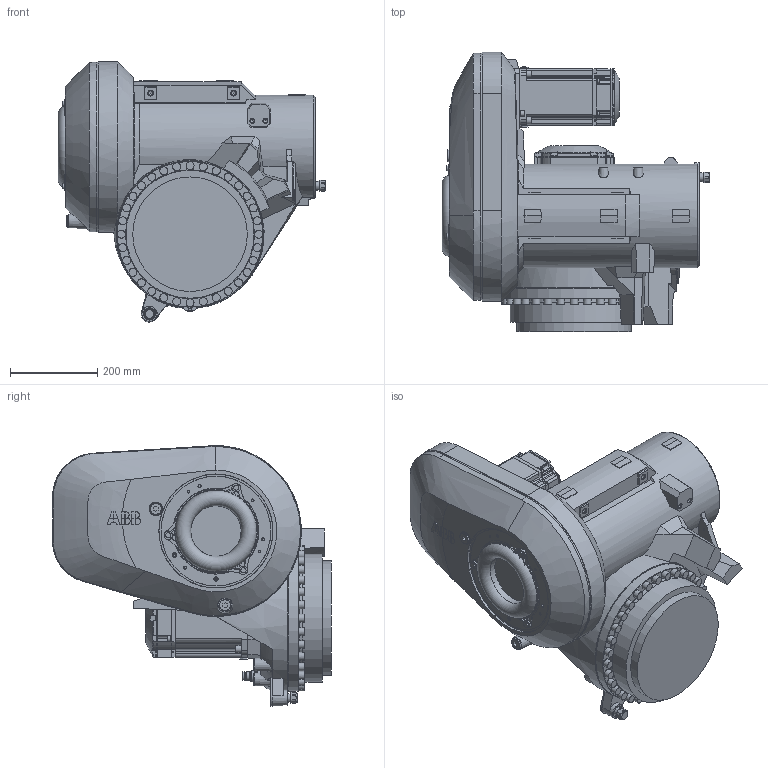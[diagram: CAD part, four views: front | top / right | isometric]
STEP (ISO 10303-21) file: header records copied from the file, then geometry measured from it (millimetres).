
FILE_DESCRIPTION (( 'STEP AP214' ), '1' );
FILE_NAME ('IRB6740-MH3_260kg-300_OC_00_LINK03_CAD.step', '2026-05-07T13:29:04', ( '' ), ( '' ), 'SwSTEP 2.0', 'SolidWorks 2024', '' );
FILE_SCHEMA (( 'AUTOMOTIVE_DESIGN' ));
Length unit declared in the file: millimetre
Products named in the file (1): IRB6740-MH3_260kg-300_OC_00_LINK03_CAD
Bounding box: 614.99 x 640 x 597.48 mm (x, y, z)
Volume: 59123601.6 mm3; surface area: 1917012.2 mm2
Topology: 1 solids, 7 shells, 1653 faces, 4356 edges, 2802 vertices
Faces by surface type: plane 938, cylinder 303, cone 236, bspline 91, torus 71, sphere 14
Full cylindrical faces by diameter (mm): 5 x11, 6.8 x2, 8.5 x4, 10 x6, 10.2 x6, 12 x3, 13 x8, 16.27 x8, 17.7 x1, 18.27 x32, 19 x2, 19.4 x1, 19.7 x2, 19.93 x1, 20 x3, 20.8 x3, 23 x1, 26.5 x1, 27 x3, 28 x2, 28.58 x1, 170 x1, 195 x1, 197.5 x1, 263 x1, 293.8 x1, 294 x1, 335 x1
Entity records: 76519 total; most frequent: CARTESIAN_POINT 20772, ORIENTED_EDGE 8032, DIRECTION 7162, EDGE_CURVE 4016, VERTEX_POINT 2690, AXIS2_PLACEMENT_3D 2632, EDGE_LOOP 1980, VECTOR 1898
